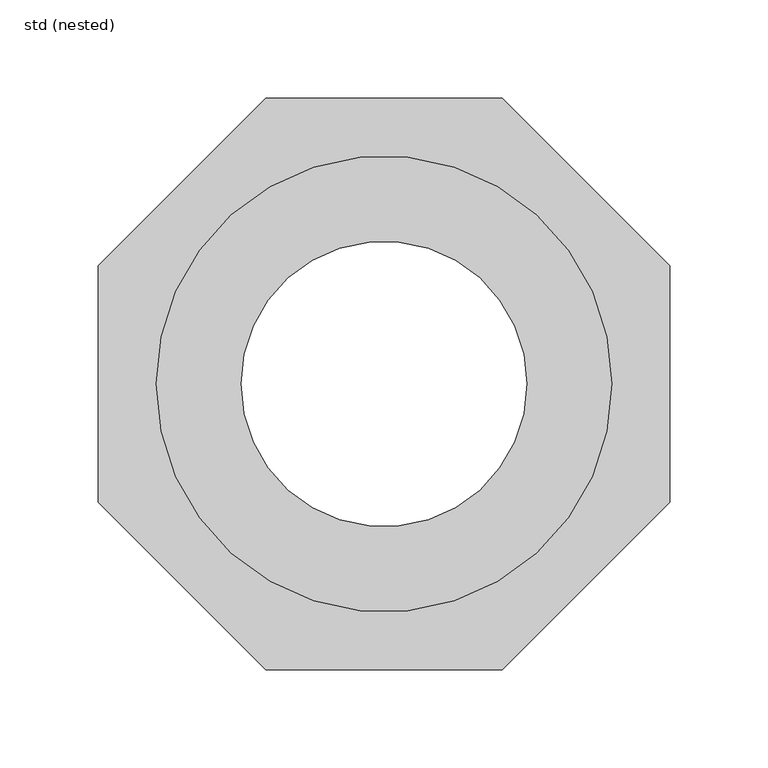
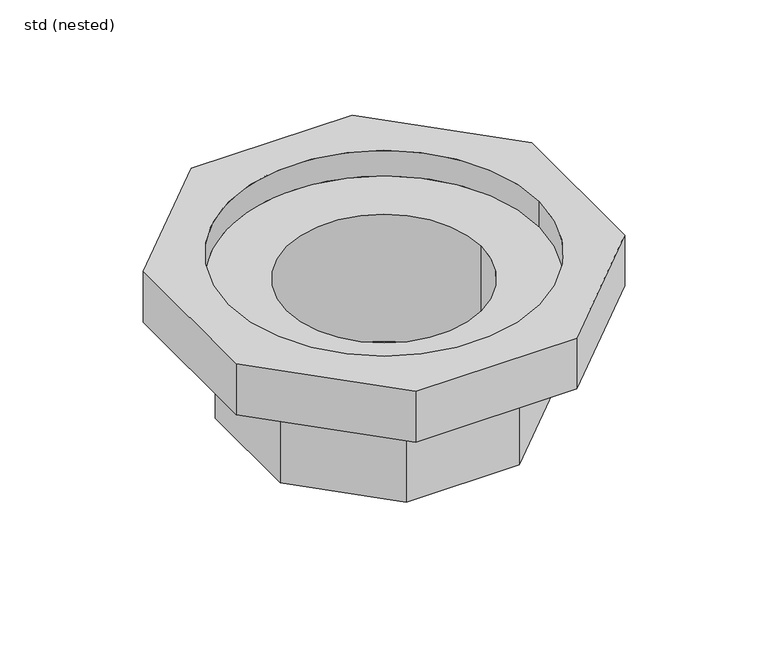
"""IFC4 building model written with IfcOpenShell, lengths in millimetres: sanitary terminal geometry, ZZZ_do not use_PF_CG_WPB_insulating body lower section for Passavant Jet_ACO : std (nested)."""

from ifc_helpers import new_model, si_unit, frame, origin, place, context, project, spatial, polyline, circle_curve, source, transform, mapped, element, save
from ifc_brep_helpers import plane_surface, revolved_surface, advanced_brep


def std_nested_e6102d04(model_context):
    return source(origin(), model_context, "Body", "AdvancedBrep", [
        advanced_brep(
        [(-60.0609665, 145.0, -40.0), (60.0609665, 145.0, -40.0), (145.0, 60.0609665, -40.0), (145.0, -60.0609665, -40.0), (60.0609665, -145.0, -40.0), (-60.0609665, -145.0, -40.0), (-145.0, -60.0609665, -40.0), (-145.0, 60.0609665, -40.0), (42.1048086, 101.65, -40.0), (-42.1048086, 101.65, -40.0), (-101.65, 42.1048086, -40.0), (-101.65, -42.1048086, -40.0), (-42.1048086, -101.65, -40.0), (42.1048086, -101.65, -40.0), (101.65, -42.1048086, -40.0), (101.65, 42.1048086, -40.0), (-60.0609665, 145.0, 0.0), (-145.0, 60.0609665, 0.0), (-145.0, -60.0609665, 0.0), (-60.0609665, -145.0, 0.0), (60.0609665, -145.0, 0.0), (145.0, -60.0609665, 0.0), (145.0, 60.0609665, 0.0), (60.0609665, 145.0, 0.0), (115.75, 0.0, 0.0), (-115.75, 0.0, 0.0), (-115.75, 0.0, -20.0), (115.75, 0.0, -20.0), (72.5, 0.0, -20.0), (-72.5, 0.0, -20.0), (72.5, 0.0, -120.0), (-72.5, 0.0, -120.0), (42.1048086, 101.65, -120.0), (101.65, 42.1048086, -120.0), (101.65, -42.1048086, -120.0), (42.1048086, -101.65, -120.0), (-42.1048086, -101.65, -120.0), (-101.65, -42.1048086, -120.0), (-101.65, 42.1048086, -120.0), (-42.1048086, 101.65, -120.0)],
        [
            (0, 1),
            (1, 2),
            (2, 3),
            (3, 4),
            (4, 5),
            (5, 6),
            (6, 7),
            (7, 0),
            (8, 9),
            (9, 10),
            (10, 11),
            (11, 12),
            (12, 13),
            (13, 14),
            (14, 15),
            (15, 8),
            (16, 17),
            (17, 18),
            (18, 19),
            (19, 20),
            (20, 21),
            (21, 22),
            (22, 23),
            (23, 16),
            (24, 25, circle_curve(frame((0.0, 0.0, 0.0), z_axis=(0.0, 0.0, -1.0), x_axis=(1.0, 0.0, 0.0)), 115.75)),
            (25, 24, circle_curve(frame((0.0, 0.0, 0.0), z_axis=(0.0, 0.0, -1.0), x_axis=(1.0, 0.0, 0.0)), 115.75)),
            (7, 17),
            (16, 0),
            (6, 18),
            (5, 19),
            (4, 20),
            (3, 21),
            (2, 22),
            (1, 23),
            (26, 27, circle_curve(frame((0.0, 0.0, -20.0), z_axis=(0.0, 0.0, 1.0), x_axis=(1.0, 0.0, 0.0)), 115.75)),
            (27, 26, circle_curve(frame((0.0, 0.0, -20.0), z_axis=(0.0, 0.0, 1.0), x_axis=(1.0, 0.0, 0.0)), 115.75)),
            (28, 29, circle_curve(frame((0.0, 0.0, -20.0), z_axis=(0.0, 0.0, -1.0), x_axis=(1.0, 0.0, 0.0)), 72.5)),
            (29, 28, circle_curve(frame((0.0, 0.0, -20.0), z_axis=(0.0, 0.0, -1.0), x_axis=(1.0, 0.0, 0.0)), 72.5)),
            (26, 25),
            (24, 27),
            (28, 30),
            (30, 31, circle_curve(frame((0.0, 0.0, -120.0), z_axis=(0.0, 0.0, -1.0), x_axis=(1.0, 0.0, 0.0)), 72.5)),
            (31, 29),
            (31, 30, circle_curve(frame((0.0, 0.0, -120.0), z_axis=(0.0, 0.0, -1.0), x_axis=(1.0, 0.0, 0.0)), 72.5)),
            (32, 33),
            (33, 34),
            (34, 35),
            (35, 36),
            (36, 37),
            (37, 38),
            (38, 39),
            (39, 32),
            (39, 9),
            (8, 32),
            (38, 10),
            (37, 11),
            (36, 12),
            (35, 13),
            (34, 14),
            (33, 15),
        ],
        [
            plane_surface(frame((-145.0, 60.0609665, -40.0), z_axis=(0.0, 0.0, -1.0), x_axis=(0.7071067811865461, 0.7071067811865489, 0.0))),
            plane_surface(frame((-145.0, 60.0609665, 0.0), z_axis=(0.0, 0.0, 1.0), x_axis=(-0.7071067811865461, -0.7071067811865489, 0.0))),
            plane_surface(frame((-60.0609665, 145.0, 0.0), z_axis=(-0.7071067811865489, 0.7071067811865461, 0.0), x_axis=(0.0, 0.0, -1.0))),
            plane_surface(frame((-145.0, 60.0609665, 0.0), z_axis=(-1.0, 0.0, 0.0), x_axis=(0.0, 0.0, -1.0))),
            plane_surface(frame((-145.0, -60.0609665, 0.0), z_axis=(-0.7071067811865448, -0.7071067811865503, 0.0), x_axis=(0.0, 0.0, -1.0))),
            plane_surface(frame((-60.0609665, -145.0, 0.0), z_axis=(0.0, -1.0, 0.0), x_axis=(0.0, 0.0, -1.0))),
            plane_surface(frame((60.0609665, -145.0, 0.0), z_axis=(0.7071067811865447, -0.7071067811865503, 0.0), x_axis=(0.0, 0.0, -1.0))),
            plane_surface(frame((145.0, -60.0609665, 0.0), z_axis=(1.0, 0.0, 0.0), x_axis=(0.0, 0.0, -1.0))),
            plane_surface(frame((145.0, 60.0609665, 0.0), z_axis=(0.7071067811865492, 0.7071067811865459, 0.0), x_axis=(0.0, 0.0, -1.0))),
            plane_surface(frame((60.0609665, 145.0, 0.0), z_axis=(0.0, 1.0, 0.0), x_axis=(0.0, 0.0, -1.0))),
            plane_surface(frame((115.75, 0.0, -20.0), z_axis=(0.0, 0.0, 1.0), x_axis=(0.0, -1.0, 0.0))),
            revolved_surface(polyline([(115.75, 0.0, 0.0), (115.75, 0.0, -20.0)]), (0.0, 0.0, -20.0), (0.0, 0.0, 1.0)),
            revolved_surface(polyline([(72.5, 0.0, -20.0), (72.5, 0.0, -120.0)]), (0.0, 0.0, -120.0), (0.0, 0.0, 1.0)),
            plane_surface(frame((42.1048086, 101.65, -120.0), z_axis=(0.0, 0.0, -1.0), x_axis=(1.0, 0.0, 0.0))),
            plane_surface(frame((42.1048086, 101.65, -40.0), z_axis=(0.0, 1.0, 0.0), x_axis=(0.0, 0.0, -1.0))),
            plane_surface(frame((-42.1048086, 101.65, -40.0), z_axis=(-0.7071067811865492, 0.7071067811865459, 0.0), x_axis=(0.0, 0.0, -1.0))),
            plane_surface(frame((-101.65, 42.1048086, -40.0), z_axis=(-1.0, 0.0, 0.0), x_axis=(0.0, 0.0, -1.0))),
            plane_surface(frame((-101.65, -42.1048086, -40.0), z_axis=(-0.7071067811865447, -0.7071067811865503, 0.0), x_axis=(0.0, 0.0, -1.0))),
            plane_surface(frame((-42.1048086, -101.65, -40.0), z_axis=(0.0, -1.0, 0.0), x_axis=(0.0, 0.0, -1.0))),
            plane_surface(frame((42.1048086, -101.65, -40.0), z_axis=(0.7071067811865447, -0.7071067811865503, 0.0), x_axis=(0.0, 0.0, -1.0))),
            plane_surface(frame((101.65, -42.1048086, -40.0), z_axis=(1.0, 0.0, 0.0), x_axis=(0.0, 0.0, -1.0))),
            plane_surface(frame((101.65, 42.1048086, -40.0), z_axis=(0.7071067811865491, 0.707106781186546, 0.0), x_axis=(0.0, 0.0, -1.0))),
        ],
        [
            (0, [[1, 2, 3, 4, 5, 6, 7, 8], [9, 10, 11, 12, 13, 14, 15, 16]]),
            (1, [[17, 18, 19, 20, 21, 22, 23, 24], [25, 26]]),
            (2, [[-8, 27, -17, 28]]),
            (3, [[-7, 29, -18, -27]]),
            (4, [[-6, 30, -19, -29]]),
            (5, [[-5, 31, -20, -30]]),
            (6, [[-4, 32, -21, -31]]),
            (7, [[-3, 33, -22, -32]]),
            (8, [[-2, 34, -23, -33]]),
            (9, [[-1, -28, -24, -34]]),
            (10, [[35, 36], [37, 38]]),
            (11, [[-35, 39, -25, 40]]),
            (11, [[-36, -40, -26, -39]]),
            (12, [[41, 42, 43, -37]]),
            (12, [[-41, -38, -43, 44]]),
            (13, [[45, 46, 47, 48, 49, 50, 51, 52], [-42, -44]]),
            (14, [[-52, 53, -9, 54]]),
            (15, [[-51, 55, -10, -53]]),
            (16, [[-50, 56, -11, -55]]),
            (17, [[-49, 57, -12, -56]]),
            (18, [[-48, 58, -13, -57]]),
            (19, [[-47, 59, -14, -58]]),
            (20, [[-46, 60, -15, -59]]),
            (21, [[-45, -54, -16, -60]]),
        ],
    ),
    ])


if __name__ == "__main__":
    model = new_model("IFC4")
    model_context = context("Model", 3, world=origin())
    ifc_project = project(units=[si_unit("LENGTHUNIT", "METRE", prefix="MILLI")], contexts=[model_context])
    site = spatial("IfcSite", under=ifc_project)
    building = spatial("IfcBuilding", under=site)
    placement = place(None, origin())
    std_nested_shape = std_nested_e6102d04(model_context)
    element("IfcSanitaryTerminal", 1, ObjectType="ZZZ_do not use_PF_CG_WPB_insulating body lower section for Passavant Jet_ACO : std (nested)", at=placement, inside=building, context=model_context, shape_type="MappedRepresentation", body=[
        mapped(std_nested_shape, transform((0.0, 0.0, 0.0), x_axis=(1.0, 0.0, 0.0), y_axis=(0.0, 1.0, 0.0), z_axis=(0.0, 0.0, 1.0))),
    ])
    save(model, "model.ifc")
